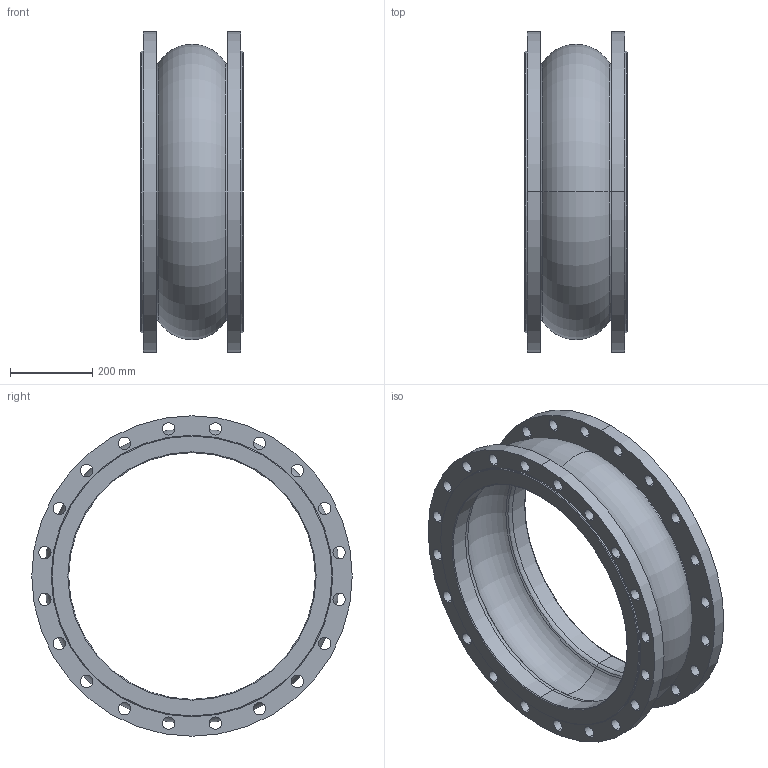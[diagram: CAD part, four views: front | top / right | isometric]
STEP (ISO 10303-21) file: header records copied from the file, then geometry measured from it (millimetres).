
FILE_DESCRIPTION (( 'STEP AP203' ), '1' );
FILE_NAME ('F8_PN10_DN600.STEP', '2012-10-31T09:22:03', ( 'luca.saino' ), ( 'Hewlett-Packard Company' ), 'SwSTEP 2.0', 'SolidWorks 2012', '' );
FILE_SCHEMA (( 'CONFIG_CONTROL_DESIGN' ));
Length unit declared in the file: millimetre
Products named in the file (1): F8_PN10_DN600
Bounding box: 250 x 780 x 780 mm (x, y, z)
Volume: 19338960.5 mm3; surface area: 2018057.5 mm2
Topology: 1 solids, 1 shells, 122 faces, 324 edges, 208 vertices
Faces by surface type: cylinder 92, torus 16, cone 8, plane 6
Entity records: 4141 total; most frequent: DIRECTION 794, CARTESIAN_POINT 655, ORIENTED_EDGE 648, AXIS2_PLACEMENT_3D 347, EDGE_CURVE 324, CIRCLE 224, VERTEX_POINT 208, EDGE_LOOP 208
